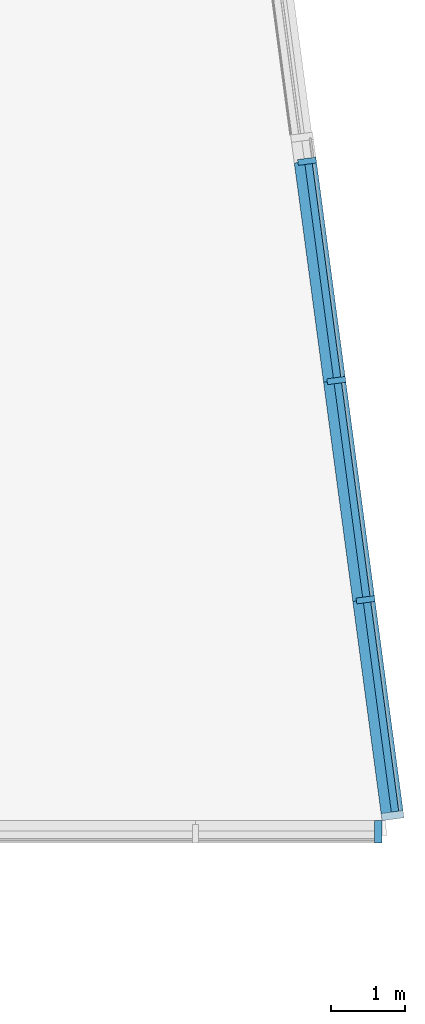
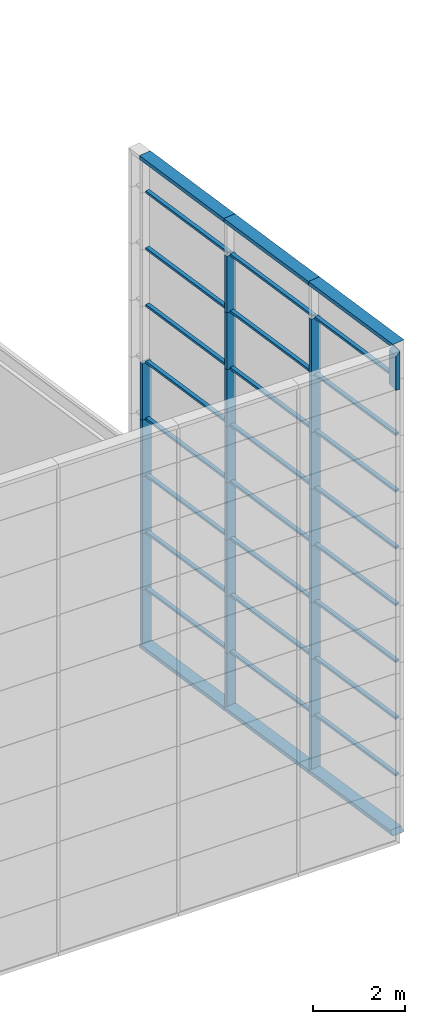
# One storey, part 10 of 27: 52 members, 2 elements without a shape of their own.
"""IFC2X3 building model written with IfcOpenShell, lengths in metres."""

from ifc_helpers import new_model, entity, si_unit, converted_unit, money_unit, direction, frame, origin_with_axes, place, context, subcontext, project, spatial, polyline, outline, extrude, clip, halfspace, material, type_object, element, aggregate, save


model = new_model("IFC2X3")

# Units and contexts
model_context = context("Model", 3, precision=1e-05, world=origin_with_axes(), true_north=direction((0.0, 1.0)))
body_context = subcontext(model_context, "Body", "Model", "MODEL_VIEW")
ifc_project = project(units=[si_unit("LENGTHUNIT", "METRE"), si_unit("AREAUNIT", "SQUARE_METRE"), si_unit("VOLUMEUNIT", "CUBIC_METRE"), converted_unit("PLANEANGLEUNIT", "DEGREE", entity("IfcPlaneAngleMeasure", 0.0174532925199), si_unit("PLANEANGLEUNIT", "RADIAN"), dimensions=[0, 0, 0, 0, 0, 0, 0]), si_unit("SOLIDANGLEUNIT", "STERADIAN"), money_unit("EUR"), converted_unit("TIMEUNIT", "Year", entity("IfcTimeMeasure", 31556926.0), si_unit("TIMEUNIT", "SECOND"), dimensions=[0, 0, 0, 0, 0, 0, 0]), si_unit("MASSUNIT", "GRAM"), si_unit("THERMODYNAMICTEMPERATUREUNIT", "DEGREE_CELSIUS"), si_unit("LUMINOUSINTENSITYUNIT", "LUMEN")], contexts=[model_context])

# Site, building, storey
site_placement = place(None, origin_with_axes())
site = spatial("IfcSite", under=ifc_project, at=site_placement, Name="Undefined", CompositionType="ELEMENT")
building_placement = place(site_placement, origin_with_axes())
building = spatial("IfcBuilding", under=site, at=building_placement, Name="Undefined", CompositionType="ELEMENT")
storey_placement = place(building_placement, frame((0.0, 0.0, 5.4), z_axis=(0.0, 0.0, 1.0), x_axis=(1.0, 0.0, 0.0)))
storey = spatial("IfcBuildingStorey", under=building, at=storey_placement, Name="R+1", CompositionType="ELEMENT", Elevation=5.4)

# Curtain wall, members
curtain_wall_type = type_object("IfcCurtainWallType", Name="Type de mur-rideau", PredefinedType="NOTDEFINED")
curtain_wall_1_placement = place(storey_placement, frame((68.4320700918, 1.51988738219, -1.0), z_axis=(0.0, 0.0, 1.0), x_axis=(1.0, 0.0, 0.0)))
curtain_wall_1 = element("IfcCurtainWall", 1, at=curtain_wall_1_placement, inside=storey, type_object=curtain_wall_type, Name="CurtainWall_01", ObjectType="CURTAIN WALL")
ifc_material = material(Name="25 % 359672764")
member_type_1 = type_object("IfcMemberType", Name="Cadre 100 x 300", PredefinedType="NOTDEFINED")
member_1_placement = place(curtain_wall_1_placement, frame((0.198383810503, -1.48682341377, 0.0), z_axis=(-0.132255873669, 0.991215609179, 0.0), x_axis=(0.0, 0.0, 1.0)))
member_1 = element("IfcMember", 2, at=member_1_placement, type_object=member_type_1, material=ifc_material, Name="Frame-Bnd-716", context=body_context, shape_type="Clipping", body=[
    clip(extrude(outline(polyline([(-0.25, -0.1), (0.05, -0.1), (0.05, 0.0), (-0.25, 0.0), (-0.25, -0.1)])), frame((0.0, 0.0, 0.0), z_axis=(0.0, 0.0, 1.0), x_axis=(0.0, 1.0, 0.0)), (0.0, 0.0, 1.0), 3.0), halfspace(frame((0.0, 0.0, 0.0), z_axis=(-0.707106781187, 0.0, 0.707106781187), x_axis=(0.0, -1.0, 0.0)), True)),
])
member_2_placement = place(curtain_wall_1_placement, frame((-0.198383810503, 1.48682341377, 0.0), z_axis=(-0.132255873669, 0.991215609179, 0.0), x_axis=(0.0, 0.0, 1.0)))
member_2 = element("IfcMember", 3, at=member_2_placement, type_object=member_type_1, material=ifc_material, Name="Frame-Bnd-716", context=body_context, shape_type="SweptSolid", body=[
    extrude(outline(polyline([(-0.25, -0.1), (0.05, -0.1), (0.05, 0.0), (-0.25, 0.0), (-0.25, -0.1)])), frame((0.0, 0.0, 0.0), z_axis=(0.0, 0.0, 1.0), x_axis=(0.0, 1.0, 0.0)), (0.0, 0.0, 1.0), 3.0),
])
member_3_placement = place(curtain_wall_1_placement, frame((-0.595151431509, 4.46047024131, 0.0), z_axis=(-0.132255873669, 0.991215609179, 0.0), x_axis=(0.0, 0.0, 1.0)))
member_3 = element("IfcMember", 4, at=member_3_placement, type_object=member_type_1, material=ifc_material, Name="Frame-Bnd-716", context=body_context, shape_type="SweptSolid", body=[
    extrude(outline(polyline([(-0.25, -0.1), (0.05, -0.1), (0.05, 0.0), (-0.25, 0.0), (-0.25, -0.1)])), frame((0.0, 0.0, 0.0), z_axis=(0.0, 0.0, 1.0), x_axis=(0.0, 1.0, 0.0)), (0.0, 0.0, 1.0), 3.0),
])
member_4_placement = place(curtain_wall_1_placement, frame((-0.198383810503, 1.48682341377, 13.0000000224), z_axis=(0.132255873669, -0.991215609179, 0.0), x_axis=(0.0, 0.0, -1.0)))
member_4 = element("IfcMember", 5, at=member_4_placement, type_object=member_type_1, material=ifc_material, Name="Frame-Bnd-866", context=body_context, shape_type="Clipping", body=[
    clip(extrude(outline(polyline([(0.25, 0.1), (-0.05, 0.1), (-0.05, 0.0), (0.25, 0.0), (0.25, 0.1)])), frame((0.0, 0.0, 0.0), z_axis=(0.0, 0.0, 1.0), x_axis=(0.0, -1.0, 0.0)), (0.0, 0.0, 1.0), 3.0), halfspace(frame((1.5, 0.0, 1.5), z_axis=(-0.707106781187, 0.0, -0.707106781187), x_axis=(0.0, 1.0, 0.0)), True)),
])
member_5_placement = place(curtain_wall_1_placement, frame((-0.595151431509, 4.46047024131, 13.0000000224), z_axis=(0.132255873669, -0.991215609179, 0.0), x_axis=(0.0, 0.0, -1.0)))
member_5 = element("IfcMember", 6, at=member_5_placement, type_object=member_type_1, material=ifc_material, Name="Frame-Bnd-867", context=body_context, shape_type="SweptSolid", body=[
    extrude(outline(polyline([(0.25, 0.1), (-0.05, 0.1), (-0.05, 0.0), (0.25, 0.0), (0.25, 0.1)])), frame((0.0, 0.0, 0.0), z_axis=(0.0, 0.0, 1.0), x_axis=(0.0, -1.0, 0.0)), (0.0, 0.0, 1.0), 3.0),
])
member_6_placement = place(curtain_wall_1_placement, frame((-0.991919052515, 7.43411706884, 13.0000000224), z_axis=(0.132255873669, -0.991215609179, 0.0), x_axis=(0.0, 0.0, -1.0)))
member_6 = element("IfcMember", 7, at=member_6_placement, type_object=member_type_1, material=ifc_material, Name="Frame-Bnd-868", context=body_context, shape_type="SweptSolid", body=[
    extrude(outline(polyline([(0.25, 0.1), (-0.05, 0.1), (-0.05, 0.0), (0.25, 0.0), (0.25, 0.1)])), frame((0.0, 0.0, 0.0), z_axis=(0.0, 0.0, 1.0), x_axis=(0.0, -1.0, 0.0)), (0.0, 0.0, 1.0), 3.0),
])

# Curtain wall, member
curtain_wall_2_placement = place(storey_placement, frame((58.35, -0.25, -1.0), z_axis=(0.0, 0.0, 1.0), x_axis=(1.0, 0.0, 0.0)))
curtain_wall_2 = element("IfcCurtainWall", 8, at=curtain_wall_2_placement, inside=storey, type_object=curtain_wall_type, Name="CurtainWall_01", ObjectType="CURTAIN WALL")
member_7_placement = place(curtain_wall_2_placement, frame((10.032649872, 0.0, 12.0), z_axis=(4.12777855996e-08, 0.0, 1.0), x_axis=(-1.0, 0.0, 4.12777855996e-08)))
member_7 = element("IfcMember", 9, at=member_7_placement, type_object=member_type_1, material=ifc_material, Name="Frame-Bnd-908", context=body_context, shape_type="Clipping", body=[
    clip(extrude(outline(polyline([(-0.1, 0.25), (-0.1, -0.05), (0.0, -0.05), (0.0, 0.25), (-0.1, 0.25)])), frame((0.0, 0.0, 0.0), z_axis=(0.0, 0.0, 1.0), x_axis=(-1.0, 0.0, 4.12777855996e-08)), (0.0, 0.0, 1.0), 1.00000002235), halfspace(frame((0.500000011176, 0.0, 0.499999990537), z_axis=(-0.70710679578, 0.0, -0.707106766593), x_axis=(0.0, 1.0, 0.0)), True)),
])
aggregate(curtain_wall_2, [member_7])

# Member
member_type_2 = type_object("IfcMemberType", Name="Montant 80 x 250", PredefinedType="NOTDEFINED")
member_8_placement = place(curtain_wall_1_placement, frame((-0.198383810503, 1.48682341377, 0.0), z_axis=(0.0, 0.0, 1.0), x_axis=(0.132255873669, -0.991215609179, 0.0)))
member_8 = element("IfcMember", 10, at=member_8_placement, type_object=member_type_2, material=ifc_material, Name="Frame-Mll-291", context=body_context, shape_type="SweptSolid", body=[
    extrude(outline(polyline([(-0.192952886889, -0.0660997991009), (0.0548510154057, -0.0330358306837), (0.0442705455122, 0.0462614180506), (-0.203533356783, 0.0131974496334), (-0.192952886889, -0.0660997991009)])), frame((0.0, 0.0, 0.1), z_axis=(0.0, 0.0, 1.0), x_axis=(0.132255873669, 0.991215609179, 0.0)), (0.0, 0.0, 1.0), 1.4),
])

member_9_placement = place(curtain_wall_1_placement, frame((-0.595151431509, 4.46047024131, 0.0), z_axis=(0.0, 0.0, 1.0), x_axis=(0.132255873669, -0.991215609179, 0.0)))
member_9 = element("IfcMember", 11, at=member_9_placement, type_object=member_type_2, material=ifc_material, Name="Frame-Mll-291", context=body_context, shape_type="SweptSolid", body=[
    extrude(outline(polyline([(-0.192952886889, -0.0660997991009), (0.0548510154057, -0.0330358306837), (0.0442705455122, 0.0462614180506), (-0.203533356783, 0.0131974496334), (-0.192952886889, -0.0660997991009)])), frame((0.0, 0.0, 0.1), z_axis=(0.0, 0.0, 1.0), x_axis=(0.132255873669, 0.991215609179, 0.0)), (0.0, 0.0, 1.0), 1.4),
])

member_10_placement = place(curtain_wall_1_placement, frame((-0.991919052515, 7.43411706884, 0.0), z_axis=(0.0, 0.0, 1.0), x_axis=(0.132255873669, -0.991215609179, 0.0)))
member_10 = element("IfcMember", 12, at=member_10_placement, type_object=member_type_2, material=ifc_material, Name="Frame-Mll-291", context=body_context, shape_type="SweptSolid", body=[
    extrude(outline(polyline([(-0.192952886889, -0.0660997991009), (0.0548510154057, -0.0330358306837), (0.0442705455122, 0.0462614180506), (-0.203533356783, 0.0131974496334), (-0.192952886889, -0.0660997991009)])), frame((0.0, 0.0, 0.1), z_axis=(0.0, 0.0, 1.0), x_axis=(0.132255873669, 0.991215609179, 0.0)), (0.0, 0.0, 1.0), 1.4),
])

member_11_placement = place(curtain_wall_1_placement, frame((-0.198383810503, 1.48682341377, 1.5), z_axis=(0.0, 0.0, 1.0), x_axis=(0.132255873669, -0.991215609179, 0.0)))
member_11 = element("IfcMember", 13, at=member_11_placement, type_object=member_type_2, material=ifc_material, Name="Frame-Mll-291", context=body_context, shape_type="SweptSolid", body=[
    extrude(outline(polyline([(-0.192952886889, -0.0660997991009), (0.0548510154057, -0.0330358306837), (0.0442705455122, 0.0462614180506), (-0.203533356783, 0.0131974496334), (-0.192952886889, -0.0660997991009)])), frame((0.0, 0.0, 0.0), z_axis=(0.0, 0.0, 1.0), x_axis=(0.132255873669, 0.991215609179, 0.0)), (0.0, 0.0, 1.0), 1.5),
])

member_12_placement = place(curtain_wall_1_placement, frame((-0.595151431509, 4.46047024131, 1.5), z_axis=(0.0, 0.0, 1.0), x_axis=(0.132255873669, -0.991215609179, 0.0)))
member_12 = element("IfcMember", 14, at=member_12_placement, type_object=member_type_2, material=ifc_material, Name="Frame-Mll-291", context=body_context, shape_type="SweptSolid", body=[
    extrude(outline(polyline([(-0.192952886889, -0.0660997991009), (0.0548510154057, -0.0330358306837), (0.0442705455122, 0.0462614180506), (-0.203533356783, 0.0131974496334), (-0.192952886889, -0.0660997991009)])), frame((0.0, 0.0, 0.0), z_axis=(0.0, 0.0, 1.0), x_axis=(0.132255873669, 0.991215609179, 0.0)), (0.0, 0.0, 1.0), 1.5),
])

member_13_placement = place(curtain_wall_1_placement, frame((-0.991919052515, 7.43411706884, 1.5), z_axis=(0.0, 0.0, 1.0), x_axis=(0.132255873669, -0.991215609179, 0.0)))
member_13 = element("IfcMember", 15, at=member_13_placement, type_object=member_type_2, material=ifc_material, Name="Frame-Mll-291", context=body_context, shape_type="SweptSolid", body=[
    extrude(outline(polyline([(-0.192952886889, -0.0660997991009), (0.0548510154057, -0.0330358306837), (0.0442705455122, 0.0462614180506), (-0.203533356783, 0.0131974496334), (-0.192952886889, -0.0660997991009)])), frame((0.0, 0.0, 0.0), z_axis=(0.0, 0.0, 1.0), x_axis=(0.132255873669, 0.991215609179, 0.0)), (0.0, 0.0, 1.0), 1.5),
])

member_14_placement = place(curtain_wall_1_placement, frame((-0.198383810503, 1.48682341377, 3.0), z_axis=(0.0, 0.0, 1.0), x_axis=(0.132255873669, -0.991215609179, 0.0)))
member_14 = element("IfcMember", 16, at=member_14_placement, type_object=member_type_2, material=ifc_material, Name="Frame-Mll-291", context=body_context, shape_type="SweptSolid", body=[
    extrude(outline(polyline([(-0.192952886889, -0.0660997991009), (0.0548510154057, -0.0330358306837), (0.0442705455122, 0.0462614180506), (-0.203533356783, 0.0131974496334), (-0.192952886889, -0.0660997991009)])), frame((0.0, 0.0, 0.0), z_axis=(0.0, 0.0, 1.0), x_axis=(0.132255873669, 0.991215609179, 0.0)), (0.0, 0.0, 1.0), 1.5),
])

member_15_placement = place(curtain_wall_1_placement, frame((-0.595151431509, 4.46047024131, 3.0), z_axis=(0.0, 0.0, 1.0), x_axis=(0.132255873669, -0.991215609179, 0.0)))
member_15 = element("IfcMember", 17, at=member_15_placement, type_object=member_type_2, material=ifc_material, Name="Frame-Mll-291", context=body_context, shape_type="SweptSolid", body=[
    extrude(outline(polyline([(-0.192952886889, -0.0660997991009), (0.0548510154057, -0.0330358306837), (0.0442705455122, 0.0462614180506), (-0.203533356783, 0.0131974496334), (-0.192952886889, -0.0660997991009)])), frame((0.0, 0.0, 0.0), z_axis=(0.0, 0.0, 1.0), x_axis=(0.132255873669, 0.991215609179, 0.0)), (0.0, 0.0, 1.0), 1.5),
])

member_16_placement = place(curtain_wall_1_placement, frame((-0.991919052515, 7.43411706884, 3.0), z_axis=(0.0, 0.0, 1.0), x_axis=(0.132255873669, -0.991215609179, 0.0)))
member_16 = element("IfcMember", 18, at=member_16_placement, type_object=member_type_2, material=ifc_material, Name="Frame-Mll-291", context=body_context, shape_type="SweptSolid", body=[
    extrude(outline(polyline([(-0.192952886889, -0.0660997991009), (0.0548510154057, -0.0330358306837), (0.0442705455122, 0.0462614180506), (-0.203533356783, 0.0131974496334), (-0.192952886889, -0.0660997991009)])), frame((0.0, 0.0, 0.0), z_axis=(0.0, 0.0, 1.0), x_axis=(0.132255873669, 0.991215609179, 0.0)), (0.0, 0.0, 1.0), 1.5),
])

member_17_placement = place(curtain_wall_1_placement, frame((-0.198383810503, 1.48682341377, 4.5), z_axis=(0.0, 0.0, 1.0), x_axis=(0.132255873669, -0.991215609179, 0.0)))
member_17 = element("IfcMember", 19, at=member_17_placement, type_object=member_type_2, material=ifc_material, Name="Frame-Mll-291", context=body_context, shape_type="SweptSolid", body=[
    extrude(outline(polyline([(-0.192952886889, -0.0660997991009), (0.0548510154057, -0.0330358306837), (0.0442705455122, 0.0462614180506), (-0.203533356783, 0.0131974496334), (-0.192952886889, -0.0660997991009)])), frame((0.0, 0.0, 0.0), z_axis=(0.0, 0.0, 1.0), x_axis=(0.132255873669, 0.991215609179, 0.0)), (0.0, 0.0, 1.0), 1.5),
])

member_18_placement = place(curtain_wall_1_placement, frame((-0.595151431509, 4.46047024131, 4.5), z_axis=(0.0, 0.0, 1.0), x_axis=(0.132255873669, -0.991215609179, 0.0)))
member_18 = element("IfcMember", 20, at=member_18_placement, type_object=member_type_2, material=ifc_material, Name="Frame-Mll-291", context=body_context, shape_type="SweptSolid", body=[
    extrude(outline(polyline([(-0.192952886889, -0.0660997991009), (0.0548510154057, -0.0330358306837), (0.0442705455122, 0.0462614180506), (-0.203533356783, 0.0131974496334), (-0.192952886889, -0.0660997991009)])), frame((0.0, 0.0, 0.0), z_axis=(0.0, 0.0, 1.0), x_axis=(0.132255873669, 0.991215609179, 0.0)), (0.0, 0.0, 1.0), 1.5),
])

member_19_placement = place(curtain_wall_1_placement, frame((-0.991919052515, 7.43411706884, 4.5), z_axis=(0.0, 0.0, 1.0), x_axis=(0.132255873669, -0.991215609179, 0.0)))
member_19 = element("IfcMember", 21, at=member_19_placement, type_object=member_type_2, material=ifc_material, Name="Frame-Mll-291", context=body_context, shape_type="SweptSolid", body=[
    extrude(outline(polyline([(-0.192952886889, -0.0660997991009), (0.0548510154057, -0.0330358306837), (0.0442705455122, 0.0462614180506), (-0.203533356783, 0.0131974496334), (-0.192952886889, -0.0660997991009)])), frame((0.0, 0.0, 0.0), z_axis=(0.0, 0.0, 1.0), x_axis=(0.132255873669, 0.991215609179, 0.0)), (0.0, 0.0, 1.0), 1.5),
])

member_20_placement = place(curtain_wall_1_placement, frame((-0.198383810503, 1.48682341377, 6.0), z_axis=(0.0, 0.0, 1.0), x_axis=(0.132255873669, -0.991215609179, 0.0)))
member_20 = element("IfcMember", 22, at=member_20_placement, type_object=member_type_2, material=ifc_material, Name="Frame-Mll-291", context=body_context, shape_type="SweptSolid", body=[
    extrude(outline(polyline([(-0.192952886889, -0.0660997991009), (0.0548510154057, -0.0330358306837), (0.0442705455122, 0.0462614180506), (-0.203533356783, 0.0131974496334), (-0.192952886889, -0.0660997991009)])), frame((0.0, 0.0, 0.0), z_axis=(0.0, 0.0, 1.0), x_axis=(0.132255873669, 0.991215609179, 0.0)), (0.0, 0.0, 1.0), 1.5),
])

member_21_placement = place(curtain_wall_1_placement, frame((-0.595151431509, 4.46047024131, 6.0), z_axis=(0.0, 0.0, 1.0), x_axis=(0.132255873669, -0.991215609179, 0.0)))
member_21 = element("IfcMember", 23, at=member_21_placement, type_object=member_type_2, material=ifc_material, Name="Frame-Mll-291", context=body_context, shape_type="SweptSolid", body=[
    extrude(outline(polyline([(-0.192952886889, -0.0660997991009), (0.0548510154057, -0.0330358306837), (0.0442705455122, 0.0462614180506), (-0.203533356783, 0.0131974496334), (-0.192952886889, -0.0660997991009)])), frame((0.0, 0.0, 0.0), z_axis=(0.0, 0.0, 1.0), x_axis=(0.132255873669, 0.991215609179, 0.0)), (0.0, 0.0, 1.0), 1.5),
])

member_22_placement = place(curtain_wall_1_placement, frame((-0.991919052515, 7.43411706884, 6.0), z_axis=(0.0, 0.0, 1.0), x_axis=(0.132255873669, -0.991215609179, 0.0)))
member_22 = element("IfcMember", 24, at=member_22_placement, type_object=member_type_2, material=ifc_material, Name="Frame-Mll-291", context=body_context, shape_type="SweptSolid", body=[
    extrude(outline(polyline([(-0.192952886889, -0.0660997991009), (0.0548510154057, -0.0330358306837), (0.0442705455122, 0.0462614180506), (-0.203533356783, 0.0131974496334), (-0.192952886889, -0.0660997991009)])), frame((0.0, 0.0, 0.0), z_axis=(0.0, 0.0, 1.0), x_axis=(0.132255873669, 0.991215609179, 0.0)), (0.0, 0.0, 1.0), 1.5),
])

member_23_placement = place(curtain_wall_1_placement, frame((-0.198383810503, 1.48682341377, 7.5), z_axis=(0.0, 0.0, 1.0), x_axis=(0.132255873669, -0.991215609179, 0.0)))
member_23 = element("IfcMember", 25, at=member_23_placement, type_object=member_type_2, material=ifc_material, Name="Frame-Mll-291", context=body_context, shape_type="SweptSolid", body=[
    extrude(outline(polyline([(-0.192952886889, -0.0660997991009), (0.0548510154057, -0.0330358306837), (0.0442705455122, 0.0462614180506), (-0.203533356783, 0.0131974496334), (-0.192952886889, -0.0660997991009)])), frame((0.0, 0.0, 0.0), z_axis=(0.0, 0.0, 1.0), x_axis=(0.132255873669, 0.991215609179, 0.0)), (0.0, 0.0, 1.0), 1.5),
])

member_24_placement = place(curtain_wall_1_placement, frame((-0.595151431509, 4.46047024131, 7.5), z_axis=(0.0, 0.0, 1.0), x_axis=(0.132255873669, -0.991215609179, 0.0)))
member_24 = element("IfcMember", 26, at=member_24_placement, type_object=member_type_2, material=ifc_material, Name="Frame-Mll-291", context=body_context, shape_type="SweptSolid", body=[
    extrude(outline(polyline([(-0.192952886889, -0.0660997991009), (0.0548510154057, -0.0330358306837), (0.0442705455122, 0.0462614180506), (-0.203533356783, 0.0131974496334), (-0.192952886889, -0.0660997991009)])), frame((0.0, 0.0, 0.0), z_axis=(0.0, 0.0, 1.0), x_axis=(0.132255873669, 0.991215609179, 0.0)), (0.0, 0.0, 1.0), 1.5),
])

member_25_placement = place(curtain_wall_1_placement, frame((-0.198383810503, 1.48682341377, 9.0), z_axis=(0.0, 0.0, 1.0), x_axis=(0.132255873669, -0.991215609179, 0.0)))
member_25 = element("IfcMember", 27, at=member_25_placement, type_object=member_type_2, material=ifc_material, Name="Frame-Mll-291", context=body_context, shape_type="SweptSolid", body=[
    extrude(outline(polyline([(-0.192952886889, -0.0660997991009), (0.0548510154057, -0.0330358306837), (0.0442705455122, 0.0462614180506), (-0.203533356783, 0.0131974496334), (-0.192952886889, -0.0660997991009)])), frame((0.0, 0.0, 0.0), z_axis=(0.0, 0.0, 1.0), x_axis=(0.132255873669, 0.991215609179, 0.0)), (0.0, 0.0, 1.0), 1.5),
])

member_26_placement = place(curtain_wall_1_placement, frame((-0.595151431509, 4.46047024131, 9.0), z_axis=(0.0, 0.0, 1.0), x_axis=(0.132255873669, -0.991215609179, 0.0)))
member_26 = element("IfcMember", 28, at=member_26_placement, type_object=member_type_2, material=ifc_material, Name="Frame-Mll-291", context=body_context, shape_type="SweptSolid", body=[
    extrude(outline(polyline([(-0.192952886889, -0.0660997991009), (0.0548510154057, -0.0330358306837), (0.0442705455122, 0.0462614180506), (-0.203533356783, 0.0131974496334), (-0.192952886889, -0.0660997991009)])), frame((0.0, 0.0, 0.0), z_axis=(0.0, 0.0, 1.0), x_axis=(0.132255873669, 0.991215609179, 0.0)), (0.0, 0.0, 1.0), 1.5),
])

member_27_placement = place(curtain_wall_1_placement, frame((-0.198383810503, 1.48682341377, 10.5), z_axis=(0.0, 0.0, 1.0), x_axis=(0.132255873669, -0.991215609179, 0.0)))
member_27 = element("IfcMember", 29, at=member_27_placement, type_object=member_type_2, material=ifc_material, Name="Frame-Mll-291", context=body_context, shape_type="SweptSolid", body=[
    extrude(outline(polyline([(-0.192952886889, -0.0660997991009), (0.0548510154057, -0.0330358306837), (0.0442705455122, 0.0462614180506), (-0.203533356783, 0.0131974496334), (-0.192952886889, -0.0660997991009)])), frame((0.0, 0.0, 0.0), z_axis=(0.0, 0.0, 1.0), x_axis=(0.132255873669, 0.991215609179, 0.0)), (0.0, 0.0, 1.0), 1.5),
])

member_28_placement = place(curtain_wall_1_placement, frame((-0.595151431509, 4.46047024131, 10.5), z_axis=(0.0, 0.0, 1.0), x_axis=(0.132255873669, -0.991215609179, 0.0)))
member_28 = element("IfcMember", 30, at=member_28_placement, type_object=member_type_2, material=ifc_material, Name="Frame-Mll-291", context=body_context, shape_type="SweptSolid", body=[
    extrude(outline(polyline([(-0.192952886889, -0.0660997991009), (0.0548510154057, -0.0330358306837), (0.0442705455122, 0.0462614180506), (-0.203533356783, 0.0131974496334), (-0.192952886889, -0.0660997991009)])), frame((0.0, 0.0, 0.0), z_axis=(0.0, 0.0, 1.0), x_axis=(0.132255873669, 0.991215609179, 0.0)), (0.0, 0.0, 1.0), 1.5),
])

member_type_3 = type_object("IfcMemberType", Name="Traverse 60 x 100", PredefinedType="NOTDEFINED")
member_29_placement = place(curtain_wall_1_placement, frame((0.198383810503, -1.48682341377, 1.5), z_axis=(-0.132255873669, 0.991215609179, 0.0), x_axis=(0.0, 0.0, 1.0)))
member_29 = element("IfcMember", 31, at=member_29_placement, type_object=member_type_3, material=ifc_material, Name="Frame-Trs-752", context=body_context, shape_type="SweptSolid", body=[
    extrude(outline(polyline([(-0.11, -0.03), (-0.01, -0.03), (-0.01, 0.03), (-0.11, 0.03), (-0.11, -0.03)])), frame((0.0, 0.0, 0.1), z_axis=(0.0, 0.0, 1.0), x_axis=(0.0, 1.0, 0.0)), (0.0, 0.0, 1.0), 2.86),
])

member_30_placement = place(curtain_wall_1_placement, frame((-0.198383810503, 1.48682341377, 1.5), z_axis=(-0.132255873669, 0.991215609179, 0.0), x_axis=(0.0, 0.0, 1.0)))
member_30 = element("IfcMember", 32, at=member_30_placement, type_object=member_type_3, material=ifc_material, Name="Frame-Trs-752", context=body_context, shape_type="SweptSolid", body=[
    extrude(outline(polyline([(-0.11, -0.03), (-0.00999999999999, -0.03), (-0.00999999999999, 0.03), (-0.11, 0.03), (-0.11, -0.03)])), frame((0.0, 0.0, 0.04), z_axis=(0.0, 0.0, 1.0), x_axis=(0.0, 1.0, 0.0)), (0.0, 0.0, 1.0), 2.92),
])

member_31_placement = place(curtain_wall_1_placement, frame((-0.595151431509, 4.46047024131, 1.5), z_axis=(-0.132255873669, 0.991215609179, 0.0), x_axis=(0.0, 0.0, 1.0)))
member_31 = element("IfcMember", 33, at=member_31_placement, type_object=member_type_3, material=ifc_material, Name="Frame-Trs-752", context=body_context, shape_type="SweptSolid", body=[
    extrude(outline(polyline([(-0.11, -0.03), (-0.00999999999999, -0.03), (-0.00999999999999, 0.03), (-0.11, 0.03), (-0.11, -0.03)])), frame((0.0, 0.0, 0.04), z_axis=(0.0, 0.0, 1.0), x_axis=(0.0, 1.0, 0.0)), (0.0, 0.0, 1.0), 2.92),
])

member_32_placement = place(curtain_wall_1_placement, frame((0.198383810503, -1.48682341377, 3.0), z_axis=(-0.132255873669, 0.991215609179, 0.0), x_axis=(0.0, 0.0, 1.0)))
member_32 = element("IfcMember", 34, at=member_32_placement, type_object=member_type_3, material=ifc_material, Name="Frame-Trs-752", context=body_context, shape_type="SweptSolid", body=[
    extrude(outline(polyline([(-0.11, -0.03), (-0.01, -0.03), (-0.01, 0.03), (-0.11, 0.03), (-0.11, -0.03)])), frame((0.0, 0.0, 0.1), z_axis=(0.0, 0.0, 1.0), x_axis=(0.0, 1.0, 0.0)), (0.0, 0.0, 1.0), 2.86),
])

member_33_placement = place(curtain_wall_1_placement, frame((-0.198383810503, 1.48682341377, 3.0), z_axis=(-0.132255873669, 0.991215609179, 0.0), x_axis=(0.0, 0.0, 1.0)))
member_33 = element("IfcMember", 35, at=member_33_placement, type_object=member_type_3, material=ifc_material, Name="Frame-Trs-752", context=body_context, shape_type="SweptSolid", body=[
    extrude(outline(polyline([(-0.11, -0.03), (-0.00999999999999, -0.03), (-0.00999999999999, 0.03), (-0.11, 0.03), (-0.11, -0.03)])), frame((0.0, 0.0, 0.04), z_axis=(0.0, 0.0, 1.0), x_axis=(0.0, 1.0, 0.0)), (0.0, 0.0, 1.0), 2.92),
])

member_34_placement = place(curtain_wall_1_placement, frame((-0.595151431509, 4.46047024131, 3.0), z_axis=(-0.132255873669, 0.991215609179, 0.0), x_axis=(0.0, 0.0, 1.0)))
member_34 = element("IfcMember", 36, at=member_34_placement, type_object=member_type_3, material=ifc_material, Name="Frame-Trs-752", context=body_context, shape_type="SweptSolid", body=[
    extrude(outline(polyline([(-0.11, -0.03), (-0.00999999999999, -0.03), (-0.00999999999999, 0.03), (-0.11, 0.03), (-0.11, -0.03)])), frame((0.0, 0.0, 0.04), z_axis=(0.0, 0.0, 1.0), x_axis=(0.0, 1.0, 0.0)), (0.0, 0.0, 1.0), 2.92),
])

member_35_placement = place(curtain_wall_1_placement, frame((0.198383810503, -1.48682341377, 4.5), z_axis=(-0.132255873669, 0.991215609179, 0.0), x_axis=(0.0, 0.0, 1.0)))
member_35 = element("IfcMember", 37, at=member_35_placement, type_object=member_type_3, material=ifc_material, Name="Frame-Trs-752", context=body_context, shape_type="SweptSolid", body=[
    extrude(outline(polyline([(-0.11, -0.03), (-0.01, -0.03), (-0.01, 0.03), (-0.11, 0.03), (-0.11, -0.03)])), frame((0.0, 0.0, 0.1), z_axis=(0.0, 0.0, 1.0), x_axis=(0.0, 1.0, 0.0)), (0.0, 0.0, 1.0), 2.86),
])

member_36_placement = place(curtain_wall_1_placement, frame((-0.198383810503, 1.48682341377, 4.5), z_axis=(-0.132255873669, 0.991215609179, 0.0), x_axis=(0.0, 0.0, 1.0)))
member_36 = element("IfcMember", 38, at=member_36_placement, type_object=member_type_3, material=ifc_material, Name="Frame-Trs-752", context=body_context, shape_type="SweptSolid", body=[
    extrude(outline(polyline([(-0.11, -0.03), (-0.00999999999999, -0.03), (-0.00999999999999, 0.03), (-0.11, 0.03), (-0.11, -0.03)])), frame((0.0, 0.0, 0.04), z_axis=(0.0, 0.0, 1.0), x_axis=(0.0, 1.0, 0.0)), (0.0, 0.0, 1.0), 2.92),
])

member_37_placement = place(curtain_wall_1_placement, frame((-0.595151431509, 4.46047024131, 4.5), z_axis=(-0.132255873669, 0.991215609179, 0.0), x_axis=(0.0, 0.0, 1.0)))
member_37 = element("IfcMember", 39, at=member_37_placement, type_object=member_type_3, material=ifc_material, Name="Frame-Trs-752", context=body_context, shape_type="SweptSolid", body=[
    extrude(outline(polyline([(-0.11, -0.03), (-0.00999999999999, -0.03), (-0.00999999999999, 0.03), (-0.11, 0.03), (-0.11, -0.03)])), frame((0.0, 0.0, 0.04), z_axis=(0.0, 0.0, 1.0), x_axis=(0.0, 1.0, 0.0)), (0.0, 0.0, 1.0), 2.92),
])

member_38_placement = place(curtain_wall_1_placement, frame((0.198383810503, -1.48682341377, 6.0), z_axis=(-0.132255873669, 0.991215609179, 0.0), x_axis=(0.0, 0.0, 1.0)))
member_38 = element("IfcMember", 40, at=member_38_placement, type_object=member_type_3, material=ifc_material, Name="Frame-Trs-752", context=body_context, shape_type="SweptSolid", body=[
    extrude(outline(polyline([(-0.11, -0.03), (-0.01, -0.03), (-0.01, 0.03), (-0.11, 0.03), (-0.11, -0.03)])), frame((0.0, 0.0, 0.1), z_axis=(0.0, 0.0, 1.0), x_axis=(0.0, 1.0, 0.0)), (0.0, 0.0, 1.0), 2.86),
])

member_39_placement = place(curtain_wall_1_placement, frame((-0.198383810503, 1.48682341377, 6.0), z_axis=(-0.132255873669, 0.991215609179, 0.0), x_axis=(0.0, 0.0, 1.0)))
member_39 = element("IfcMember", 41, at=member_39_placement, type_object=member_type_3, material=ifc_material, Name="Frame-Trs-752", context=body_context, shape_type="SweptSolid", body=[
    extrude(outline(polyline([(-0.11, -0.03), (-0.00999999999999, -0.03), (-0.00999999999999, 0.03), (-0.11, 0.03), (-0.11, -0.03)])), frame((0.0, 0.0, 0.04), z_axis=(0.0, 0.0, 1.0), x_axis=(0.0, 1.0, 0.0)), (0.0, 0.0, 1.0), 2.92),
])

member_40_placement = place(curtain_wall_1_placement, frame((-0.595151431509, 4.46047024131, 6.0), z_axis=(-0.132255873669, 0.991215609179, 0.0), x_axis=(0.0, 0.0, 1.0)))
member_40 = element("IfcMember", 42, at=member_40_placement, type_object=member_type_3, material=ifc_material, Name="Frame-Trs-752", context=body_context, shape_type="SweptSolid", body=[
    extrude(outline(polyline([(-0.11, -0.03), (-0.00999999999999, -0.03), (-0.00999999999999, 0.03), (-0.11, 0.03), (-0.11, -0.03)])), frame((0.0, 0.0, 0.04), z_axis=(0.0, 0.0, 1.0), x_axis=(0.0, 1.0, 0.0)), (0.0, 0.0, 1.0), 2.92),
])

member_41_placement = place(curtain_wall_1_placement, frame((0.198383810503, -1.48682341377, 7.5), z_axis=(-0.132255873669, 0.991215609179, 0.0), x_axis=(0.0, 0.0, 1.0)))
member_41 = element("IfcMember", 43, at=member_41_placement, type_object=member_type_3, material=ifc_material, Name="Frame-Trs-752", context=body_context, shape_type="SweptSolid", body=[
    extrude(outline(polyline([(-0.11, -0.03), (-0.01, -0.03), (-0.01, 0.03), (-0.11, 0.03), (-0.11, -0.03)])), frame((0.0, 0.0, 0.1), z_axis=(0.0, 0.0, 1.0), x_axis=(0.0, 1.0, 0.0)), (0.0, 0.0, 1.0), 2.86),
])

member_42_placement = place(curtain_wall_1_placement, frame((-0.198383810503, 1.48682341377, 7.5), z_axis=(-0.132255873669, 0.991215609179, 0.0), x_axis=(0.0, 0.0, 1.0)))
member_42 = element("IfcMember", 44, at=member_42_placement, type_object=member_type_3, material=ifc_material, Name="Frame-Trs-752", context=body_context, shape_type="SweptSolid", body=[
    extrude(outline(polyline([(-0.11, -0.03), (-0.00999999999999, -0.03), (-0.00999999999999, 0.03), (-0.11, 0.03), (-0.11, -0.03)])), frame((0.0, 0.0, 0.04), z_axis=(0.0, 0.0, 1.0), x_axis=(0.0, 1.0, 0.0)), (0.0, 0.0, 1.0), 2.92),
])

member_43_placement = place(curtain_wall_1_placement, frame((-0.595151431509, 4.46047024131, 7.5), z_axis=(-0.132255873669, 0.991215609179, 0.0), x_axis=(0.0, 0.0, 1.0)))
member_43 = element("IfcMember", 45, at=member_43_placement, type_object=member_type_3, material=ifc_material, Name="Frame-Trs-752", context=body_context, shape_type="SweptSolid", body=[
    extrude(outline(polyline([(-0.11, -0.03), (-0.00999999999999, -0.03), (-0.00999999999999, 0.03), (-0.11, 0.03), (-0.11, -0.03)])), frame((0.0, 0.0, 0.04), z_axis=(0.0, 0.0, 1.0), x_axis=(0.0, 1.0, 0.0)), (0.0, 0.0, 1.0), 2.92),
])

member_44_placement = place(curtain_wall_1_placement, frame((0.198383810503, -1.48682341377, 9.0), z_axis=(-0.132255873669, 0.991215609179, 0.0), x_axis=(0.0, 0.0, 1.0)))
member_44 = element("IfcMember", 46, at=member_44_placement, type_object=member_type_3, material=ifc_material, Name="Frame-Trs-752", context=body_context, shape_type="SweptSolid", body=[
    extrude(outline(polyline([(-0.11, -0.03), (-0.01, -0.03), (-0.01, 0.03), (-0.11, 0.03), (-0.11, -0.03)])), frame((0.0, 0.0, 0.1), z_axis=(0.0, 0.0, 1.0), x_axis=(0.0, 1.0, 0.0)), (0.0, 0.0, 1.0), 2.86),
])

member_45_placement = place(curtain_wall_1_placement, frame((-0.198383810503, 1.48682341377, 9.0), z_axis=(-0.132255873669, 0.991215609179, 0.0), x_axis=(0.0, 0.0, 1.0)))
member_45 = element("IfcMember", 47, at=member_45_placement, type_object=member_type_3, material=ifc_material, Name="Frame-Trs-752", context=body_context, shape_type="SweptSolid", body=[
    extrude(outline(polyline([(-0.11, -0.03), (-0.00999999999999, -0.03), (-0.00999999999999, 0.03), (-0.11, 0.03), (-0.11, -0.03)])), frame((0.0, 0.0, 0.04), z_axis=(0.0, 0.0, 1.0), x_axis=(0.0, 1.0, 0.0)), (0.0, 0.0, 1.0), 2.92),
])

member_46_placement = place(curtain_wall_1_placement, frame((-0.595151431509, 4.46047024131, 9.0), z_axis=(-0.132255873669, 0.991215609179, 0.0), x_axis=(0.0, 0.0, 1.0)))
member_46 = element("IfcMember", 48, at=member_46_placement, type_object=member_type_3, material=ifc_material, Name="Frame-Trs-752", context=body_context, shape_type="SweptSolid", body=[
    extrude(outline(polyline([(-0.11, -0.03), (-0.00999999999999, -0.03), (-0.00999999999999, 0.03), (-0.11, 0.03), (-0.11, -0.03)])), frame((0.0, 0.0, 0.04), z_axis=(0.0, 0.0, 1.0), x_axis=(0.0, 1.0, 0.0)), (0.0, 0.0, 1.0), 2.92),
])

member_47_placement = place(curtain_wall_1_placement, frame((0.198383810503, -1.48682341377, 10.5), z_axis=(-0.132255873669, 0.991215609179, 0.0), x_axis=(0.0, 0.0, 1.0)))
member_47 = element("IfcMember", 49, at=member_47_placement, type_object=member_type_3, material=ifc_material, Name="Frame-Trs-752", context=body_context, shape_type="SweptSolid", body=[
    extrude(outline(polyline([(-0.11, -0.03), (-0.01, -0.03), (-0.01, 0.03), (-0.11, 0.03), (-0.11, -0.03)])), frame((0.0, 0.0, 0.1), z_axis=(0.0, 0.0, 1.0), x_axis=(0.0, 1.0, 0.0)), (0.0, 0.0, 1.0), 2.86),
])

member_48_placement = place(curtain_wall_1_placement, frame((-0.198383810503, 1.48682341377, 10.5), z_axis=(-0.132255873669, 0.991215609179, 0.0), x_axis=(0.0, 0.0, 1.0)))
member_48 = element("IfcMember", 50, at=member_48_placement, type_object=member_type_3, material=ifc_material, Name="Frame-Trs-752", context=body_context, shape_type="SweptSolid", body=[
    extrude(outline(polyline([(-0.11, -0.03), (-0.00999999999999, -0.03), (-0.00999999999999, 0.03), (-0.11, 0.03), (-0.11, -0.03)])), frame((0.0, 0.0, 0.04), z_axis=(0.0, 0.0, 1.0), x_axis=(0.0, 1.0, 0.0)), (0.0, 0.0, 1.0), 2.92),
])

member_49_placement = place(curtain_wall_1_placement, frame((-0.595151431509, 4.46047024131, 10.5), z_axis=(-0.132255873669, 0.991215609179, 0.0), x_axis=(0.0, 0.0, 1.0)))
member_49 = element("IfcMember", 51, at=member_49_placement, type_object=member_type_3, material=ifc_material, Name="Frame-Trs-752", context=body_context, shape_type="SweptSolid", body=[
    extrude(outline(polyline([(-0.11, -0.03), (-0.00999999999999, -0.03), (-0.00999999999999, 0.03), (-0.11, 0.03), (-0.11, -0.03)])), frame((0.0, 0.0, 0.04), z_axis=(0.0, 0.0, 1.0), x_axis=(0.0, 1.0, 0.0)), (0.0, 0.0, 1.0), 2.92),
])

member_50_placement = place(curtain_wall_1_placement, frame((0.198383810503, -1.48682341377, 12.0), z_axis=(-0.132255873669, 0.991215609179, 0.0), x_axis=(0.0, 0.0, 1.0)))
member_50 = element("IfcMember", 52, at=member_50_placement, type_object=member_type_3, material=ifc_material, Name="Frame-Trs-773", context=body_context, shape_type="SweptSolid", body=[
    extrude(outline(polyline([(-0.11, -0.03), (-0.01, -0.03), (-0.01, 0.03), (-0.11, 0.03), (-0.11, -0.03)])), frame((0.0, 0.0, 0.1), z_axis=(0.0, 0.0, 1.0), x_axis=(0.0, 1.0, 0.0)), (0.0, 0.0, 1.0), 2.86),
])

member_51_placement = place(curtain_wall_1_placement, frame((-0.198383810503, 1.48682341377, 12.0), z_axis=(-0.132255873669, 0.991215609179, 0.0), x_axis=(0.0, 0.0, 1.0)))
member_51 = element("IfcMember", 53, at=member_51_placement, type_object=member_type_3, material=ifc_material, Name="Frame-Trs-773", context=body_context, shape_type="SweptSolid", body=[
    extrude(outline(polyline([(-0.11, -0.03), (-0.00999999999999, -0.03), (-0.00999999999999, 0.03), (-0.11, 0.03), (-0.11, -0.03)])), frame((0.0, 0.0, 0.04), z_axis=(0.0, 0.0, 1.0), x_axis=(0.0, 1.0, 0.0)), (0.0, 0.0, 1.0), 2.92),
])

member_52_placement = place(curtain_wall_1_placement, frame((-0.595151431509, 4.46047024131, 12.0), z_axis=(-0.132255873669, 0.991215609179, 0.0), x_axis=(0.0, 0.0, 1.0)))
member_52 = element("IfcMember", 54, at=member_52_placement, type_object=member_type_3, material=ifc_material, Name="Frame-Trs-773", context=body_context, shape_type="SweptSolid", body=[
    extrude(outline(polyline([(-0.11, -0.03), (-0.00999999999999, -0.03), (-0.00999999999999, 0.03), (-0.11, 0.03), (-0.11, -0.03)])), frame((0.0, 0.0, 0.04), z_axis=(0.0, 0.0, 1.0), x_axis=(0.0, 1.0, 0.0)), (0.0, 0.0, 1.0), 2.92),
])

aggregate(curtain_wall_1, [member_1, member_2, member_8, member_3, member_9, member_10, member_29, member_30, member_11, member_31, member_12, member_13, member_32, member_33, member_14, member_34, member_15, member_16, member_35, member_36, member_17, member_37, member_18, member_19, member_38, member_39, member_20, member_40, member_21, member_22, member_41, member_42, member_23, member_43, member_24, member_44, member_45, member_25, member_46, member_26, member_47, member_48, member_27, member_49, member_28, member_50, member_51, member_52, member_4, member_5, member_6])

save(model, "model.ifc")
